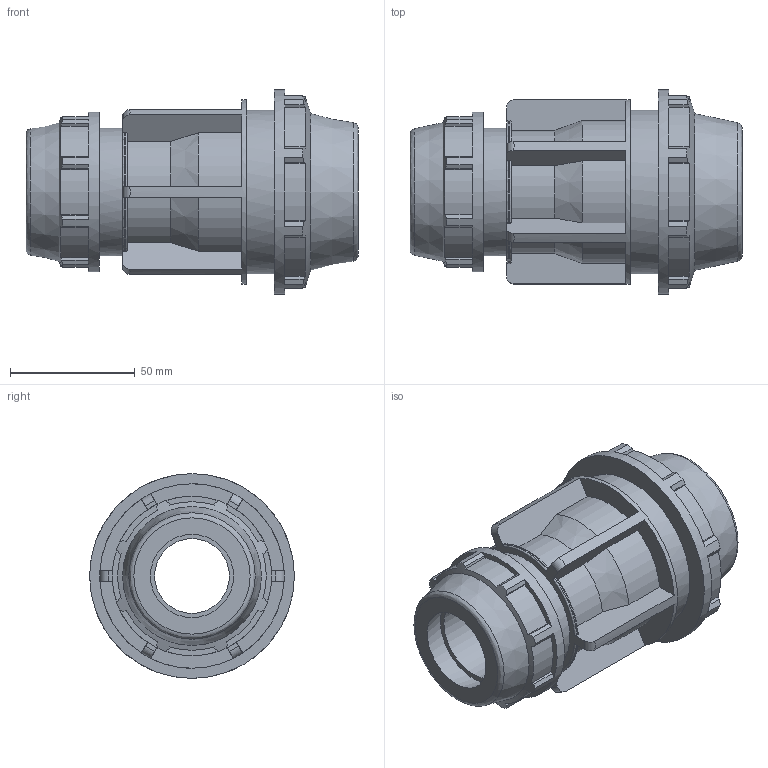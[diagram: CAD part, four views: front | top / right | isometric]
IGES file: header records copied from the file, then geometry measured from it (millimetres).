
Global section: file name: 0711M0013010.ipt; native system: Autodesk Inventor 2019; preprocessor: unknown; author: KIM; date: 20210826.124700; units: inch
Bounding box: 133 x 82.04 x 82.04 mm (x, y, z)
Volume: 229950 mm3; surface area: 58929.9 mm2
Topology: 1 solids, 1 shells, 189 faces, 553 edges, 374 vertices
Faces by surface type: plane 114, cylinder 45, revolution 20, cone 10
Full cylindrical faces by diameter (mm): 51.206 x1, 64.008 x1, 65.634 x1, 73.838 x1, 82.042 x1
